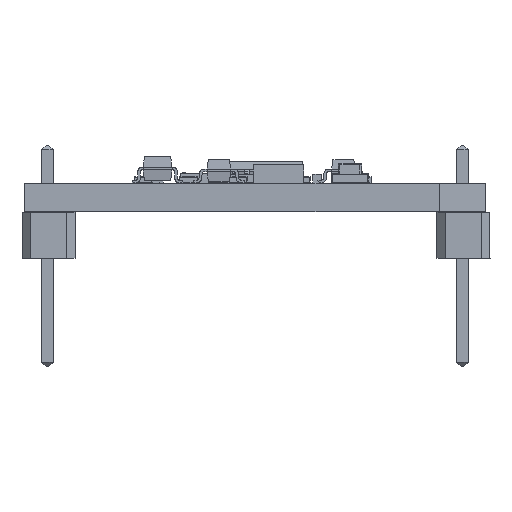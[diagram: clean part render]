
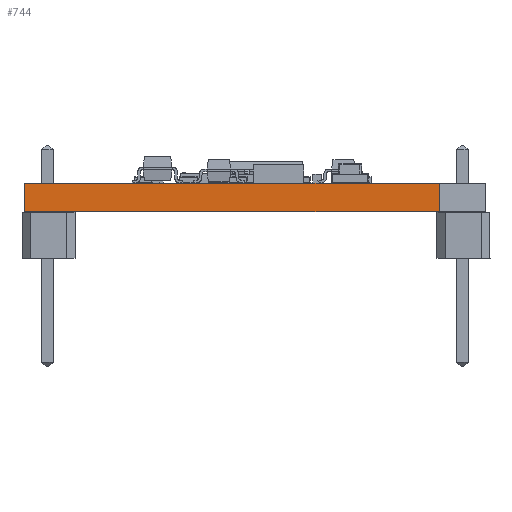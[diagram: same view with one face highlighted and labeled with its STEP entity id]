
A CAD part, front view. The second image highlights one B-rep face of the part: STEP entity #744.
In plain terms, the highlighted planar face has unit normal (0, -1, 0).
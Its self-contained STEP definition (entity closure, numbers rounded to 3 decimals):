
#719 = VERTEX_POINT('',#720);
#720 = CARTESIAN_POINT('',(21.59,-3.81,0.));
#726 = EDGE_CURVE('',#727,#719,#729,.T.);
#727 = VERTEX_POINT('',#728);
#728 = CARTESIAN_POINT('',(21.59,-3.81,-1.59));
#729 = LINE('',#730,#731);
#730 = CARTESIAN_POINT('',(21.59,-3.81,-1.59));
#731 = VECTOR('',#732,1.);
#732 = DIRECTION('',(0.,0.,1.));
#744 = ADVANCED_FACE('',(#745),#770,.T.);
#745 = FACE_BOUND('',#746,.T.);
#746 = EDGE_LOOP('',(#747,#748,#756,#764));
#747 = ORIENTED_EDGE('',*,*,#726,.T.);
#748 = ORIENTED_EDGE('',*,*,#749,.T.);
#749 = EDGE_CURVE('',#719,#750,#752,.T.);
#750 = VERTEX_POINT('',#751);
#751 = CARTESIAN_POINT('',(-1.27,-3.81,0.));
#752 = LINE('',#753,#754);
#753 = CARTESIAN_POINT('',(21.59,-3.81,0.));
#754 = VECTOR('',#755,1.);
#755 = DIRECTION('',(-1.,0.,0.));
#756 = ORIENTED_EDGE('',*,*,#757,.F.);
#757 = EDGE_CURVE('',#758,#750,#760,.T.);
#758 = VERTEX_POINT('',#759);
#759 = CARTESIAN_POINT('',(-1.27,-3.81,-1.59));
#760 = LINE('',#761,#762);
#761 = CARTESIAN_POINT('',(-1.27,-3.81,-1.59));
#762 = VECTOR('',#763,1.);
#763 = DIRECTION('',(0.,0.,1.));
#764 = ORIENTED_EDGE('',*,*,#765,.F.);
#765 = EDGE_CURVE('',#727,#758,#766,.T.);
#766 = LINE('',#767,#768);
#767 = CARTESIAN_POINT('',(21.59,-3.81,-1.59));
#768 = VECTOR('',#769,1.);
#769 = DIRECTION('',(-1.,0.,0.));
#770 = PLANE('',#771);
#771 = AXIS2_PLACEMENT_3D('',#772,#773,#774);
#772 = CARTESIAN_POINT('',(21.59,-3.81,-1.59));
#773 = DIRECTION('',(0.,-1.,0.));
#774 = DIRECTION('',(-1.,0.,0.));
